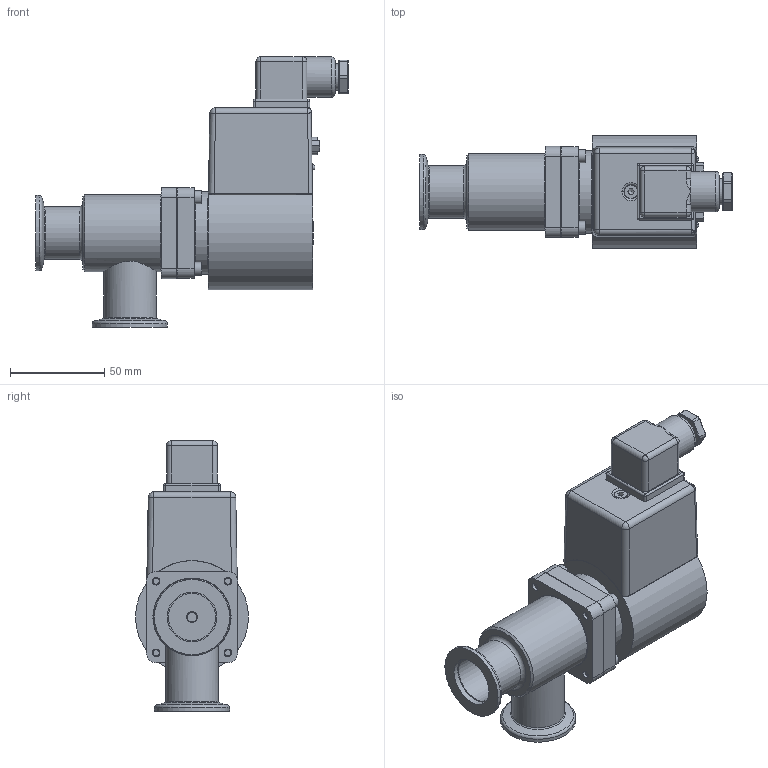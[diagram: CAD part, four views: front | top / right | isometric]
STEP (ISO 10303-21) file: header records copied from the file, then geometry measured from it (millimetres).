
FILE_DESCRIPTION(/* description */ (''),/* implementation_level */ '2;1');
FILE_NAME(/* name */ '1355096292_203.stp',/* time_stamp */ '2013-07-15T12:03:04+02:00',/* author */ (''),/* organization */ (''),/* preprocessor_version */ 'ST-DEVELOPER v11',/* originating_system */ 'SIEMENS PLM Software NX 7.5',/* authorisation */ '');
FILE_SCHEMA (('AP203_CONFIGURATION_CONTROLLED_3D_DESIGN_OF_MECHANICAL_PARTS_AND_ASSEMBLIES_MIM_LF'));
Length unit declared in the file: millimetre
Products named in the file (12): 467856; 467897; 245690.2; 245689.5; 245688.7; 510507; 510549; 481135; 481131; 467857_MODELNX-ARRAGMNTArrangement 1; 245687.12; 526347
Assembly tree (14 placements, depth 3):
  526347
    245687.12
      245688.7
      245689.5
      245690.2
    467857_MODELNX-ARRAGMNTArrangement 1
      467897
      467856
    481131
    481135  x4
    510549
    510507
Bounding box: 165.93 x 60 x 143.6 mm (x, y, z)
Volume: 222372.7 mm3; surface area: 133413.1 mm2
Topology: 48 solids, 48 shells, 991 faces, 2355 edges, 1508 vertices
Faces by surface type: plane 518, cylinder 310, cone 67, torus 50, bspline 30, sphere 16
Full cylindrical faces by diameter (mm): 3 x1, 3.26 x5, 3.3 x5, 4 x14, 4.4 x4, 4.96 x1, 5 x1, 6 x2, 7 x5, 9.962 x1, 12 x1, 14 x1, 21.5 x1, 25 x3, 26.3 x2, 28 x2, 28.1 x1, 28.5 x1, 33 x1, 36.5 x1, 39.1 x1, 39.896 x1, 39.912 x1, 40.9 x1, 41.3 x1, 41.45 x1, 41.5 x1, 41.85 x1, 44 x1, 44.8 x1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
Entity records: 31336 total; most frequent: CARTESIAN_POINT 7689, DIRECTION 4438, ORIENTED_EDGE 4278, EDGE_CURVE 2139, AXIS2_PLACEMENT_3D 1610, VERTEX_POINT 1431, LINE 1218, VECTOR 1218
